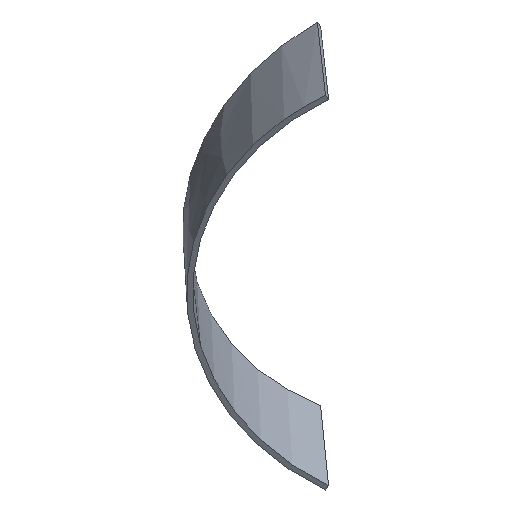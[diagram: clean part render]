
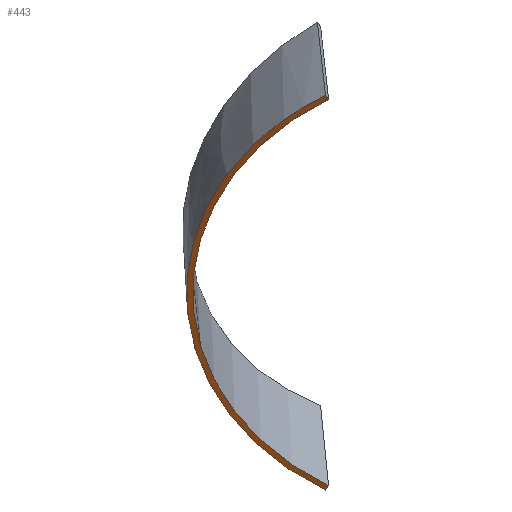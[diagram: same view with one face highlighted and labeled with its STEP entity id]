
A CAD part, isometric view. The second image highlights one B-rep face of the part: STEP entity #443.
In plain terms, the highlighted free-form (B-spline) face has degree [1, 3] with [2, 10] control points.
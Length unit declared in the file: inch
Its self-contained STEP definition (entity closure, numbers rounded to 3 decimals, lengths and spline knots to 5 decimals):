
#7 = VERTEX_POINT ( 'NONE', #213 ) ;
#13 = CARTESIAN_POINT ( 'NONE',  ( 60.72656, -60.76388, 5.96275 ) ) ;
#21 = CARTESIAN_POINT ( 'NONE',  ( 66.04234, -66.06485, -22.16093 ) ) ;
#32 = CARTESIAN_POINT ( 'NONE',  ( 60.72656, -60.76388, -5.96275 ) ) ;
#40 = B_SPLINE_CURVE_WITH_KNOTS ( 'NONE', 1,
 ( #365, #207 ),
 .UNSPECIFIED., .F., .F.,
 ( 2, 2 ),
 ( 0., 1. ),
 .UNSPECIFIED. ) ;
#41 = CARTESIAN_POINT ( 'NONE',  ( 69.42415, -69.42415, 25.87908 ) ) ;
#44 = CARTESIAN_POINT ( 'NONE',  ( 72.71911, -72.72223, -29.46194 ) ) ;
#49 = CARTESIAN_POINT ( 'NONE',  ( 61.83394, -61.86826, 11.82181 ) ) ;
#60 = CARTESIAN_POINT ( 'NONE',  ( 72.98755, -72.98755, -28.81383 ) ) ;
#64 = CARTESIAN_POINT ( 'NONE',  ( 62.35684, -62.35684, -11.56188 ) ) ;
#71 = CARTESIAN_POINT ( 'NONE',  ( 69.07018, -69.08406, 26.46115 ) ) ;
#94 = ORIENTED_EDGE ( 'NONE', *, *, #397, .T. ) ;
#102 = EDGE_CURVE ( 'NONE', #261, #424, #392, .T. ) ;
#105 = CARTESIAN_POINT ( 'NONE',  ( 72.71911, -72.72223, 29.46194 ) ) ;
#111 = CARTESIAN_POINT ( 'NONE',  ( 72.98755, -72.98755, 28.81383 ) ) ;
#153 = CARTESIAN_POINT ( 'NONE',  ( 66.46707, -66.46707, 21.67356 ) ) ;
#166 = CARTESIAN_POINT ( 'NONE',  ( 72.98755, -72.98755, 28.81383 ) ) ;
#167 = CARTESIAN_POINT ( 'NONE',  ( 61.27522, -61.27522, 5.83169 ) ) ;
#188 = CARTESIAN_POINT ( 'NONE',  ( 66.04234, -66.06485, 22.16093 ) ) ;
#194 = FACE_OUTER_BOUND ( 'NONE', #500, .T. ) ;
#197 = CARTESIAN_POINT ( 'NONE',  ( 72.71911, -72.72223, -29.46194 ) ) ;
#205 = CARTESIAN_POINT ( 'NONE',  ( 62.35684, -62.35684, -11.56188 ) ) ;
#207 = CARTESIAN_POINT ( 'NONE',  ( 72.71911, -72.72223, 29.46194 ) ) ;
#210 = CARTESIAN_POINT ( 'NONE',  ( 69.0702, -69.08407, 26.46116 ) ) ;
#213 = CARTESIAN_POINT ( 'NONE',  ( 72.98755, -72.98755, -28.81383 ) ) ;
#252 = B_SPLINE_CURVE_WITH_KNOTS ( 'NONE', 1,
 ( #436, #519 ),
 .UNSPECIFIED., .F., .F.,
 ( 2, 2 ),
 ( 0., 1. ),
 .UNSPECIFIED. ) ;
#261 = VERTEX_POINT ( 'NONE', #359 ) ;
#266 = CARTESIAN_POINT ( 'NONE',  ( 61.83394, -61.86826, 11.82181 ) ) ;
#272 = CARTESIAN_POINT ( 'NONE',  ( 61.27522, -61.27522, 5.83169 ) ) ;
#281 = CARTESIAN_POINT ( 'NONE',  ( 66.46707, -66.46707, -21.67356 ) ) ;
#285 = CARTESIAN_POINT ( 'NONE',  ( 69.42415, -69.42415, -25.87908 ) ) ;
#289 = CARTESIAN_POINT ( 'NONE',  ( 69.0702, -69.08407, -26.46116 ) ) ;
#290 = CARTESIAN_POINT ( 'NONE',  ( 62.35684, -62.35684, 11.56188 ) ) ;
#292 = B_SPLINE_SURFACE_WITH_KNOTS ( 'NONE', 1, 3, ( 
 ( #197, #472, #21, #351, #32, #311, #266, #188, #71, #429 ),
 ( #60, #315, #476, #64, #388, #272, #516, #153, #479, #111 ) ),
 .UNSPECIFIED., .F., .F., .F.,
 ( 2, 2 ),
 ( 4, 2, 2, 2, 4 ),
 ( 0., 1. ),
 ( 0., 0.25, 0.5, 0.75, 1. ),
 .UNSPECIFIED. ) ;
#303 = ORIENTED_EDGE ( 'NONE', *, *, #361, .T. ) ;
#307 = ORIENTED_EDGE ( 'NONE', *, *, #102, .F. ) ;
#311 = CARTESIAN_POINT ( 'NONE',  ( 60.72656, -60.76388, 5.96275 ) ) ;
#315 = CARTESIAN_POINT ( 'NONE',  ( 69.42415, -69.42415, -25.87908 ) ) ;
#348 = VERTEX_POINT ( 'NONE', #493 ) ;
#351 = CARTESIAN_POINT ( 'NONE',  ( 61.83394, -61.86826, -11.82181 ) ) ;
#359 = CARTESIAN_POINT ( 'NONE',  ( 72.71911, -72.72223, -29.46194 ) ) ;
#361 = EDGE_CURVE ( 'NONE', #7, #348, #435, .T. ) ;
#365 = CARTESIAN_POINT ( 'NONE',  ( 72.98755, -72.98755, 28.81383 ) ) ;
#371 = CARTESIAN_POINT ( 'NONE',  ( 61.27522, -61.27522, -5.83169 ) ) ;
#372 = CARTESIAN_POINT ( 'NONE',  ( 60.72656, -60.76388, -5.96275 ) ) ;
#388 = CARTESIAN_POINT ( 'NONE',  ( 61.27522, -61.27522, -5.83169 ) ) ;
#392 = B_SPLINE_CURVE_WITH_KNOTS ( 'NONE', 3,
 ( #44, #289, #455, #409, #372, #13, #49, #508, #210, #414 ),
 .UNSPECIFIED., .F., .F.,
 ( 4, 2, 2, 2, 4 ),
 ( 0., 0.25, 0.5, 0.75, 1. ),
 .UNSPECIFIED. ) ;
#397 = EDGE_CURVE ( 'NONE', #348, #424, #40, .T. ) ;
#409 = CARTESIAN_POINT ( 'NONE',  ( 61.83394, -61.86826, -11.82181 ) ) ;
#414 = CARTESIAN_POINT ( 'NONE',  ( 72.71911, -72.72223, 29.46194 ) ) ;
#424 = VERTEX_POINT ( 'NONE', #105 ) ;
#429 = CARTESIAN_POINT ( 'NONE',  ( 72.71911, -72.72223, 29.46194 ) ) ;
#431 = ORIENTED_EDGE ( 'NONE', *, *, #484, .F. ) ;
#435 = B_SPLINE_CURVE_WITH_KNOTS ( 'NONE', 3,
 ( #456, #285, #281, #205, #371, #167, #290, #447, #41, #166 ),
 .UNSPECIFIED., .F., .F.,
 ( 4, 2, 2, 2, 4 ),
 ( 0., 0.25, 0.5, 0.75, 1. ),
 .UNSPECIFIED. ) ;
#436 = CARTESIAN_POINT ( 'NONE',  ( 72.98755, -72.98755, -28.81383 ) ) ;
#443 = ADVANCED_FACE ( 'NONE', ( #194 ), #292, .T. ) ;
#447 = CARTESIAN_POINT ( 'NONE',  ( 66.46707, -66.46707, 21.67356 ) ) ;
#455 = CARTESIAN_POINT ( 'NONE',  ( 66.04234, -66.06485, -22.16093 ) ) ;
#456 = CARTESIAN_POINT ( 'NONE',  ( 72.98755, -72.98755, -28.81383 ) ) ;
#472 = CARTESIAN_POINT ( 'NONE',  ( 69.07018, -69.08406, -26.46115 ) ) ;
#476 = CARTESIAN_POINT ( 'NONE',  ( 66.46707, -66.46707, -21.67356 ) ) ;
#479 = CARTESIAN_POINT ( 'NONE',  ( 69.42415, -69.42415, 25.87908 ) ) ;
#484 = EDGE_CURVE ( 'NONE', #7, #261, #252, .T. ) ;
#493 = CARTESIAN_POINT ( 'NONE',  ( 72.98755, -72.98755, 28.81383 ) ) ;
#500 = EDGE_LOOP ( 'NONE', ( #431, #303, #94, #307 ) ) ;
#508 = CARTESIAN_POINT ( 'NONE',  ( 66.04234, -66.06485, 22.16093 ) ) ;
#516 = CARTESIAN_POINT ( 'NONE',  ( 62.35684, -62.35684, 11.56188 ) ) ;
#519 = CARTESIAN_POINT ( 'NONE',  ( 72.71911, -72.72223, -29.46194 ) ) ;
